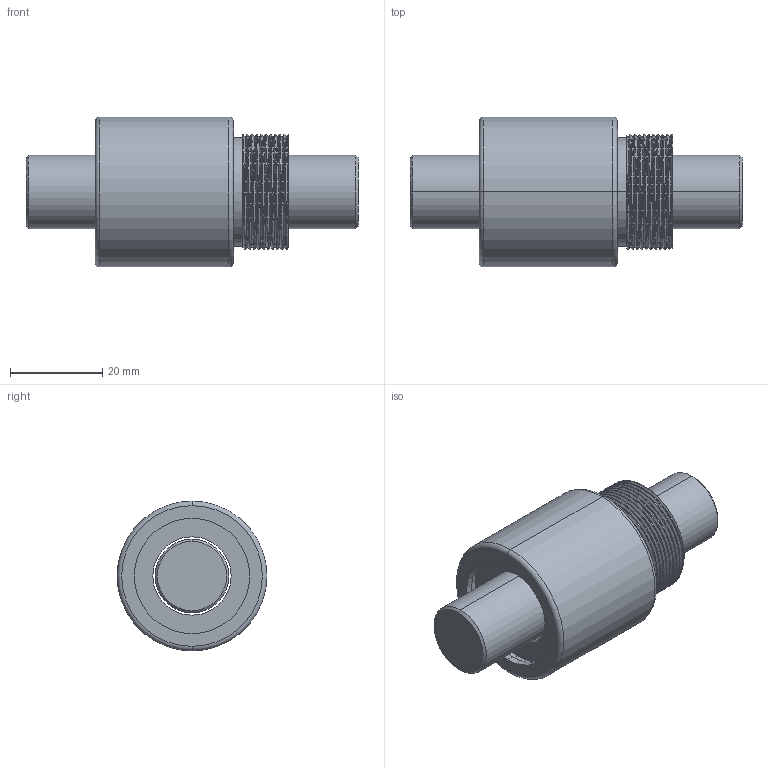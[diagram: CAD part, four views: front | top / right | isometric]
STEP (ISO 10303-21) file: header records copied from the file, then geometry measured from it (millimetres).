
FILE_DESCRIPTION (( 'STEP AP203' ), '1' );
FILE_NAME ('BSH01605 x 1mm.STEP', '2025-02-18T14:58:18', ( '' ), ( '' ), 'SwSTEP 2.0', 'SolidWorks 2019', '' );
FILE_SCHEMA (( 'CONFIG_CONTROL_DESIGN' ));
Length unit declared in the file: millimetre
Products named in the file (1): BSH01605 x 1mm
Bounding box: 72 x 32.5 x 32.5 mm (x, y, z)
Volume: 34525.8 mm3; surface area: 12059 mm2
Topology: 2 solids, 2 shells, 53 faces, 127 edges, 82 vertices
Faces by surface type: cylinder 34, plane 8, cone 4, torus 4, bspline 3
Entity records: 15639 total; most frequent: CARTESIAN_POINT 14439, ORIENTED_EDGE 254, DIRECTION 219, EDGE_CURVE 127, AXIS2_PLACEMENT_3D 91, VERTEX_POINT 82, EDGE_LOOP 59, ADVANCED_FACE 53
